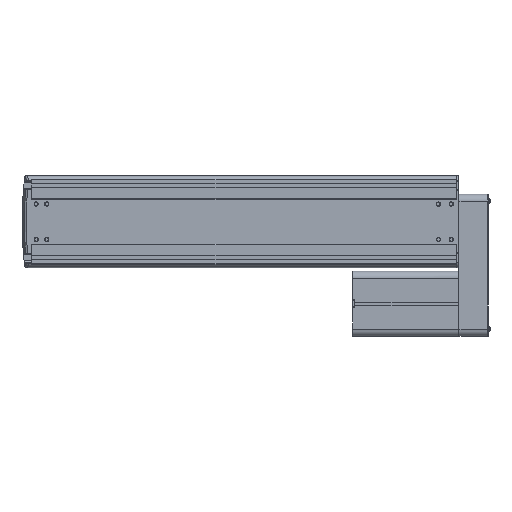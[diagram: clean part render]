
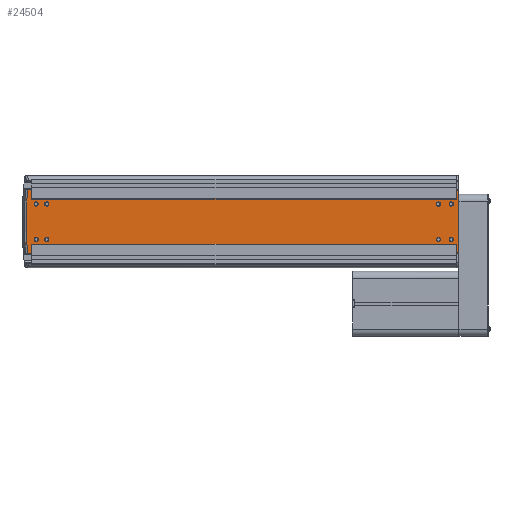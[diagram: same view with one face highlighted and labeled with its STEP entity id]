
A CAD part, front view. The second image highlights one B-rep face of the part: STEP entity #24504.
In plain terms, the highlighted planar face has unit normal (0, -1, 0).
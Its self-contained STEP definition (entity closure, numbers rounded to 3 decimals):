
#2375=CARTESIAN_POINT('',(-594.,1.5,-25.));
#2376=DIRECTION('',(0.,1.,0.));
#2377=DIRECTION('',(1.,0.,0.));
#2378=AXIS2_PLACEMENT_3D('',#2375,#2376,#2377);
#2380=CARTESIAN_POINT('',(-594.,1.5,-25.));
#2381=DIRECTION('',(0.,1.,0.));
#2382=DIRECTION('',(-1.,0.,0.));
#2383=AXIS2_PLACEMENT_3D('',#2380,#2381,#2382);
#2385=CARTESIAN_POINT('',(-594.,1.5,25.));
#2386=DIRECTION('',(0.,1.,0.));
#2387=DIRECTION('',(1.,0.,0.));
#2388=AXIS2_PLACEMENT_3D('',#2385,#2386,#2387);
#2390=CARTESIAN_POINT('',(-594.,1.5,25.));
#2391=DIRECTION('',(0.,1.,0.));
#2392=DIRECTION('',(-1.,0.,0.));
#2393=AXIS2_PLACEMENT_3D('',#2390,#2391,#2392);
#2395=CARTESIAN_POINT('',(-579.,1.5,-25.));
#2396=DIRECTION('',(0.,1.,0.));
#2397=DIRECTION('',(1.,0.,0.));
#2398=AXIS2_PLACEMENT_3D('',#2395,#2396,#2397);
#2400=CARTESIAN_POINT('',(-579.,1.5,-25.));
#2401=DIRECTION('',(0.,1.,0.));
#2402=DIRECTION('',(-1.,0.,0.));
#2403=AXIS2_PLACEMENT_3D('',#2400,#2401,#2402);
#2405=CARTESIAN_POINT('',(-579.,1.5,25.));
#2406=DIRECTION('',(0.,1.,0.));
#2407=DIRECTION('',(1.,0.,0.));
#2408=AXIS2_PLACEMENT_3D('',#2405,#2406,#2407);
#2410=CARTESIAN_POINT('',(-579.,1.5,25.));
#2411=DIRECTION('',(0.,1.,0.));
#2412=DIRECTION('',(-1.,0.,0.));
#2413=AXIS2_PLACEMENT_3D('',#2410,#2411,#2412);
#2415=CARTESIAN_POINT('',(-7.,1.5,-25.));
#2416=DIRECTION('',(0.,1.,0.));
#2417=DIRECTION('',(1.,0.,0.));
#2418=AXIS2_PLACEMENT_3D('',#2415,#2416,#2417);
#2420=CARTESIAN_POINT('',(-7.,1.5,-25.));
#2421=DIRECTION('',(0.,1.,0.));
#2422=DIRECTION('',(-1.,0.,0.));
#2423=AXIS2_PLACEMENT_3D('',#2420,#2421,#2422);
#2425=CARTESIAN_POINT('',(-7.,1.5,25.));
#2426=DIRECTION('',(0.,1.,0.));
#2427=DIRECTION('',(1.,0.,0.));
#2428=AXIS2_PLACEMENT_3D('',#2425,#2426,#2427);
#2430=CARTESIAN_POINT('',(-7.,1.5,25.));
#2431=DIRECTION('',(0.,1.,0.));
#2432=DIRECTION('',(-1.,0.,0.));
#2433=AXIS2_PLACEMENT_3D('',#2430,#2431,#2432);
#2435=CARTESIAN_POINT('',(-25.,1.5,-25.));
#2436=DIRECTION('',(0.,1.,0.));
#2437=DIRECTION('',(1.,0.,0.));
#2438=AXIS2_PLACEMENT_3D('',#2435,#2436,#2437);
#2440=CARTESIAN_POINT('',(-25.,1.5,-25.));
#2441=DIRECTION('',(0.,1.,0.));
#2442=DIRECTION('',(-1.,0.,0.));
#2443=AXIS2_PLACEMENT_3D('',#2440,#2441,#2442);
#2445=CARTESIAN_POINT('',(-25.,1.5,25.));
#2446=DIRECTION('',(0.,1.,0.));
#2447=DIRECTION('',(1.,0.,0.));
#2448=AXIS2_PLACEMENT_3D('',#2445,#2446,#2447);
#2450=CARTESIAN_POINT('',(-25.,1.5,25.));
#2451=DIRECTION('',(0.,1.,0.));
#2452=DIRECTION('',(-1.,0.,0.));
#2453=AXIS2_PLACEMENT_3D('',#2450,#2451,#2452);
#2455=CARTESIAN_POINT('',(-114.,1.5,0.));
#2456=DIRECTION('',(0.,-1.,0.));
#2457=DIRECTION('',(-0.996,0.,0.091));
#2458=AXIS2_PLACEMENT_3D('',#2455,#2456,#2457);
#2460=DIRECTION('',(-1.,0.,0.));
#2461=VECTOR('',#2460,600.);
#2462=CARTESIAN_POINT('',(0.,1.5,32.));
#2463=LINE('',#2462,#2461);
#2464=DIRECTION('',(0.,0.,1.));
#2465=VECTOR('',#2464,88.);
#2466=CARTESIAN_POINT('',(3.,1.5,-44.));
#2467=LINE('',#2466,#2465);
#3144=DIRECTION('',(0.,0.,-1.));
#3145=VECTOR('',#3144,13.);
#3146=CARTESIAN_POINT('',(-600.,1.5,45.));
#3147=LINE('',#3146,#3145);
#3205=DIRECTION('',(0.,0.,-1.));
#3206=VECTOR('',#3205,13.);
#3207=CARTESIAN_POINT('',(-600.,1.5,-32.));
#3208=LINE('',#3207,#3206);
#3552=DIRECTION('',(0.,0.,1.));
#3553=VECTOR('',#3552,12.);
#3554=CARTESIAN_POINT('',(0.,1.5,32.));
#3555=LINE('',#3554,#3553);
#3604=DIRECTION('',(0.,0.,1.));
#3605=VECTOR('',#3604,12.);
#3606=CARTESIAN_POINT('',(0.,1.5,-44.));
#3607=LINE('',#3606,#3605);
#4105=DIRECTION('',(-1.,0.,0.));
#4106=VECTOR('',#4105,6.147);
#4107=CARTESIAN_POINT('',(-600.,1.5,45.));
#4108=LINE('',#4107,#4106);
#4135=DIRECTION('',(1.,0.,0.));
#4136=VECTOR('',#4135,6.147);
#4137=CARTESIAN_POINT('',(-606.147,1.5,-45.));
#4138=LINE('',#4137,#4136);
#11384=DIRECTION('',(1.,0.,0.));
#11385=VECTOR('',#11384,3.);
#11386=CARTESIAN_POINT('',(0.,1.5,-44.));
#11387=LINE('',#11386,#11385);
#11724=DIRECTION('',(-1.,0.,0.));
#11725=VECTOR('',#11724,600.);
#11726=CARTESIAN_POINT('',(0.,1.5,-32.));
#11727=LINE('',#11726,#11725);
#11756=DIRECTION('',(-1.,0.,0.));
#11757=VECTOR('',#11756,3.);
#11758=CARTESIAN_POINT('',(3.,1.5,44.));
#11759=LINE('',#11758,#11757);
#17204=CARTESIAN_POINT('',(3.,1.5,44.));
#17205=VERTEX_POINT('',#17204);
#17206=CARTESIAN_POINT('',(3.,1.5,-44.));
#17207=VERTEX_POINT('',#17206);
#17972=CARTESIAN_POINT('',(-606.147,1.5,45.));
#17973=CARTESIAN_POINT('',(-606.147,1.5,-45.));
#17974=VERTEX_POINT('',#17972);
#17975=VERTEX_POINT('',#17973);
#18831=CARTESIAN_POINT('',(-591.5,1.5,-25.));
#18832=CARTESIAN_POINT('',(-596.5,1.5,-25.));
#18833=VERTEX_POINT('',#18831);
#18834=VERTEX_POINT('',#18832);
#18835=CARTESIAN_POINT('',(-591.5,1.5,25.));
#18836=CARTESIAN_POINT('',(-596.5,1.5,25.));
#18837=VERTEX_POINT('',#18835);
#18838=VERTEX_POINT('',#18836);
#18839=CARTESIAN_POINT('',(-576.5,1.5,-25.));
#18840=CARTESIAN_POINT('',(-581.5,1.5,-25.));
#18841=VERTEX_POINT('',#18839);
#18842=VERTEX_POINT('',#18840);
#18843=CARTESIAN_POINT('',(-576.5,1.5,25.));
#18844=CARTESIAN_POINT('',(-581.5,1.5,25.));
#18845=VERTEX_POINT('',#18843);
#18846=VERTEX_POINT('',#18844);
#18847=CARTESIAN_POINT('',(-4.5,1.5,-25.));
#18848=CARTESIAN_POINT('',(-9.5,1.5,-25.));
#18849=VERTEX_POINT('',#18847);
#18850=VERTEX_POINT('',#18848);
#18851=CARTESIAN_POINT('',(-4.5,1.5,25.));
#18852=CARTESIAN_POINT('',(-9.5,1.5,25.));
#18853=VERTEX_POINT('',#18851);
#18854=VERTEX_POINT('',#18852);
#18855=CARTESIAN_POINT('',(-22.5,1.5,-25.));
#18856=CARTESIAN_POINT('',(-27.5,1.5,-25.));
#18857=VERTEX_POINT('',#18855);
#18858=VERTEX_POINT('',#18856);
#18859=CARTESIAN_POINT('',(-22.5,1.5,25.));
#18860=CARTESIAN_POINT('',(-27.5,1.5,25.));
#18861=VERTEX_POINT('',#18859);
#18862=VERTEX_POINT('',#18860);
#19792=CARTESIAN_POINT('',(0.,1.5,-44.));
#19793=VERTEX_POINT('',#19792);
#19794=CARTESIAN_POINT('',(0.,1.5,-32.));
#19795=VERTEX_POINT('',#19794);
#19796=CARTESIAN_POINT('',(0.,1.5,32.));
#19797=CARTESIAN_POINT('',(0.,1.5,44.));
#19798=VERTEX_POINT('',#19796);
#19799=VERTEX_POINT('',#19797);
#20248=CARTESIAN_POINT('',(-600.,1.5,45.));
#20249=CARTESIAN_POINT('',(-600.,1.5,32.));
#20250=VERTEX_POINT('',#20248);
#20251=VERTEX_POINT('',#20249);
#20252=CARTESIAN_POINT('',(-600.,1.5,-32.));
#20253=CARTESIAN_POINT('',(-600.,1.5,-45.));
#20254=VERTEX_POINT('',#20252);
#20255=VERTEX_POINT('',#20253);
#24426=CARTESIAN_POINT('',(-300.,1.5,0.));
#24427=DIRECTION('',(0.,1.,0.));
#24428=DIRECTION('',(0.,0.,-1.));
#24429=AXIS2_PLACEMENT_3D('',#24426,#24427,#24428);
#24430=PLANE('',#24429);
#24432=ORIENTED_EDGE('',*,*,#24431,.T.);
#24434=ORIENTED_EDGE('',*,*,#24433,.T.);
#24436=ORIENTED_EDGE('',*,*,#24435,.F.);
#24438=ORIENTED_EDGE('',*,*,#24437,.F.);
#24440=ORIENTED_EDGE('',*,*,#24439,.F.);
#24442=ORIENTED_EDGE('',*,*,#24441,.T.);
#24444=ORIENTED_EDGE('',*,*,#24443,.F.);
#24446=ORIENTED_EDGE('',*,*,#24445,.T.);
#24448=ORIENTED_EDGE('',*,*,#24447,.F.);
#24450=ORIENTED_EDGE('',*,*,#24449,.F.);
#24452=ORIENTED_EDGE('',*,*,#24451,.F.);
#24454=ORIENTED_EDGE('',*,*,#24453,.T.);
#24455=EDGE_LOOP('',(#24432,#24434,#24436,#24438,#24440,#24442,#24444,#24446,
#24448,#24450,#24452,#24454));
#24456=FACE_OUTER_BOUND('',#24455,.F.);
#24457=ORIENTED_EDGE('',*,*,#24416,.F.);
#24459=ORIENTED_EDGE('',*,*,#24458,.F.);
#24460=EDGE_LOOP('',(#24457,#24459));
#24461=FACE_BOUND('',#24460,.F.);
#24463=ORIENTED_EDGE('',*,*,#24462,.F.);
#24465=ORIENTED_EDGE('',*,*,#24464,.F.);
#24466=EDGE_LOOP('',(#24463,#24465));
#24467=FACE_BOUND('',#24466,.F.);
#24469=ORIENTED_EDGE('',*,*,#24468,.F.);
#24471=ORIENTED_EDGE('',*,*,#24470,.F.);
#24472=EDGE_LOOP('',(#24469,#24471));
#24473=FACE_BOUND('',#24472,.F.);
#24475=ORIENTED_EDGE('',*,*,#24474,.F.);
#24477=ORIENTED_EDGE('',*,*,#24476,.F.);
#24478=EDGE_LOOP('',(#24475,#24477));
#24479=FACE_BOUND('',#24478,.F.);
#24481=ORIENTED_EDGE('',*,*,#24480,.F.);
#24483=ORIENTED_EDGE('',*,*,#24482,.F.);
#24484=EDGE_LOOP('',(#24481,#24483));
#24485=FACE_BOUND('',#24484,.F.);
#24487=ORIENTED_EDGE('',*,*,#24486,.F.);
#24489=ORIENTED_EDGE('',*,*,#24488,.F.);
#24490=EDGE_LOOP('',(#24487,#24489));
#24491=FACE_BOUND('',#24490,.F.);
#24493=ORIENTED_EDGE('',*,*,#24492,.F.);
#24495=ORIENTED_EDGE('',*,*,#24494,.F.);
#24496=EDGE_LOOP('',(#24493,#24495));
#24497=FACE_BOUND('',#24496,.F.);
#24499=ORIENTED_EDGE('',*,*,#24498,.F.);
#24501=ORIENTED_EDGE('',*,*,#24500,.F.);
#24502=EDGE_LOOP('',(#24499,#24501));
#24503=FACE_BOUND('',#24502,.F.);
#24504=ADVANCED_FACE('',(#24456,#24461,#24467,#24473,#24479,#24485,#24491,
#24497,#24503),#24430,.F.);
#2379=CIRCLE('',#2378,2.5);
#2384=CIRCLE('',#2383,2.5);
#2389=CIRCLE('',#2388,2.5);
#2394=CIRCLE('',#2393,2.5);
#2399=CIRCLE('',#2398,2.5);
#2404=CIRCLE('',#2403,2.5);
#2409=CIRCLE('',#2408,2.5);
#2414=CIRCLE('',#2413,2.5);
#2419=CIRCLE('',#2418,2.5);
#2424=CIRCLE('',#2423,2.5);
#2429=CIRCLE('',#2428,2.5);
#2434=CIRCLE('',#2433,2.5);
#2439=CIRCLE('',#2438,2.5);
#2444=CIRCLE('',#2443,2.5);
#2449=CIRCLE('',#2448,2.5);
#2454=CIRCLE('',#2453,2.5);
#2459=CIRCLE('',#2458,494.2);
#24416=EDGE_CURVE('',#18837,#18838,#2389,.T.);
#24431=EDGE_CURVE('',#19795,#20254,#11727,.T.);
#24433=EDGE_CURVE('',#20254,#20255,#3208,.T.);
#24435=EDGE_CURVE('',#17975,#20255,#4138,.T.);
#24437=EDGE_CURVE('',#17974,#17975,#2459,.T.);
#24439=EDGE_CURVE('',#20250,#17974,#4108,.T.);
#24441=EDGE_CURVE('',#20250,#20251,#3147,.T.);
#24443=EDGE_CURVE('',#19798,#20251,#2463,.T.);
#24445=EDGE_CURVE('',#19798,#19799,#3555,.T.);
#24447=EDGE_CURVE('',#17205,#19799,#11759,.T.);
#24449=EDGE_CURVE('',#17207,#17205,#2467,.T.);
#24451=EDGE_CURVE('',#19793,#17207,#11387,.T.);
#24453=EDGE_CURVE('',#19793,#19795,#3607,.T.);
#24458=EDGE_CURVE('',#18838,#18837,#2394,.T.);
#24462=EDGE_CURVE('',#18841,#18842,#2399,.T.);
#24464=EDGE_CURVE('',#18842,#18841,#2404,.T.);
#24468=EDGE_CURVE('',#18845,#18846,#2409,.T.);
#24470=EDGE_CURVE('',#18846,#18845,#2414,.T.);
#24474=EDGE_CURVE('',#18849,#18850,#2419,.T.);
#24476=EDGE_CURVE('',#18850,#18849,#2424,.T.);
#24480=EDGE_CURVE('',#18853,#18854,#2429,.T.);
#24482=EDGE_CURVE('',#18854,#18853,#2434,.T.);
#24486=EDGE_CURVE('',#18857,#18858,#2439,.T.);
#24488=EDGE_CURVE('',#18858,#18857,#2444,.T.);
#24492=EDGE_CURVE('',#18861,#18862,#2449,.T.);
#24494=EDGE_CURVE('',#18862,#18861,#2454,.T.);
#24498=EDGE_CURVE('',#18833,#18834,#2379,.T.);
#24500=EDGE_CURVE('',#18834,#18833,#2384,.T.);
